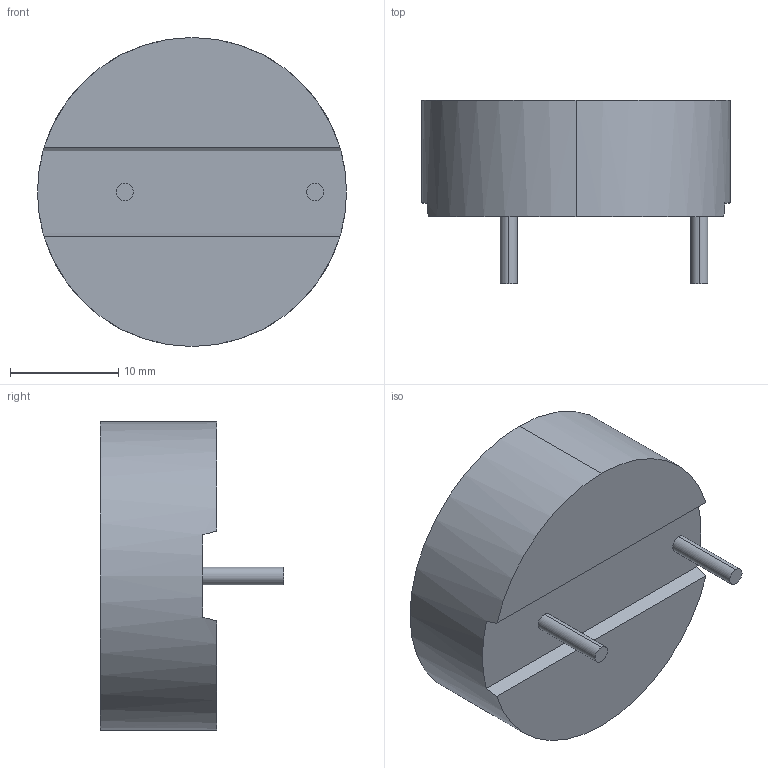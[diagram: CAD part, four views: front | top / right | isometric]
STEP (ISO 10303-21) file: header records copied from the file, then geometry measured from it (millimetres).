
FILE_DESCRIPTION (( 'STEP AP214' ), '1' );
FILE_NAME ('IHTH_IHTH1125KZ 22uH.step', '2014-06-30T14:01:42', ( '' ), ( '' ), 'SwSTEP 2.0', 'SolidWorks 2014', '' );
FILE_SCHEMA (( 'AUTOMOTIVE_DESIGN' ));
Length unit declared in the file: inch
Products named in the file (1): IHTH_IHTH1125KZ  22uH
Bounding box: 28.57 x 16.94 x 28.57 mm (x, y, z)
Volume: 6634.9 mm3; surface area: 2356.1 mm2
Topology: 1 solids, 1 shells, 39 faces, 90 edges, 60 vertices
Faces by surface type: plane 33, cylinder 6
Entity records: 1231 total; most frequent: CARTESIAN_POINT 202, DIRECTION 182, ORIENTED_EDGE 180, EDGE_CURVE 90, VECTOR 70, LINE 70, VERTEX_POINT 60, AXIS2_PLACEMENT_3D 56
